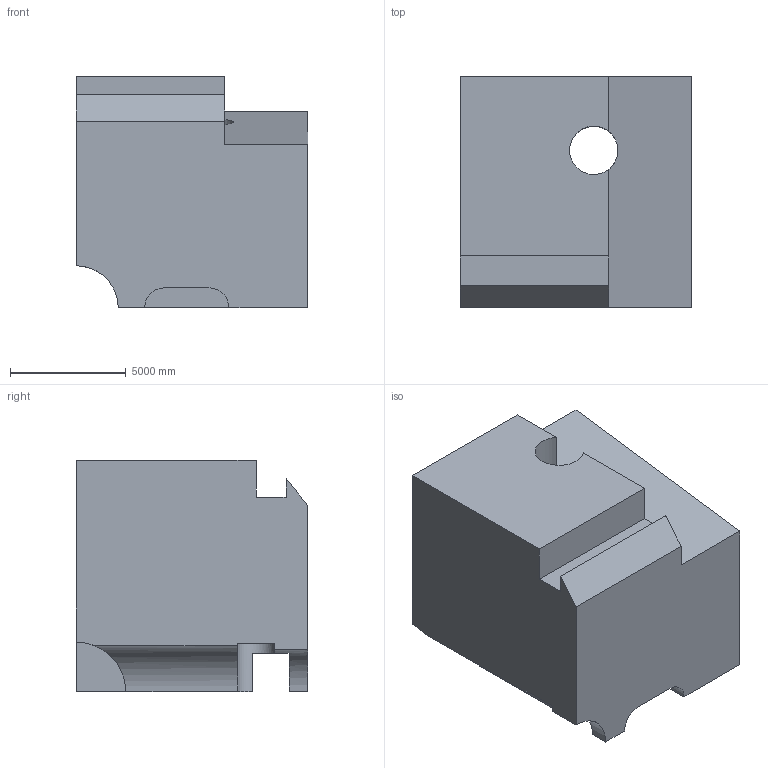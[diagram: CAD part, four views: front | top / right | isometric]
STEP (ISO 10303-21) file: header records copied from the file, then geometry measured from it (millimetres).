
FILE_DESCRIPTION (( 'STEP AP203' ), '1' );
FILE_NAME ('1989.STEP', '2022-08-23T10:19:39', ( 'user' ), ( '' ), 'SwSTEP 2.0', 'SolidWorks 2021', '' );
FILE_SCHEMA (( 'CONFIG_CONTROL_DESIGN' ));
Length unit declared in the file: centimetre
Products named in the file (1): 1989
Bounding box: 10000 x 10000 x 10000 mm (x, y, z)
Volume: 790997247921.9 mm3; surface area: 638821354 mm2
Topology: 1 solids, 1 shells, 31 faces, 90 edges, 60 vertices
Faces by surface type: plane 23, cylinder 8
Entity records: 1220 total; most frequent: CARTESIAN_POINT 310, ORIENTED_EDGE 180, DIRECTION 167, EDGE_CURVE 90, LINE 69, VECTOR 69, VERTEX_POINT 60, AXIS2_PLACEMENT_3D 49
